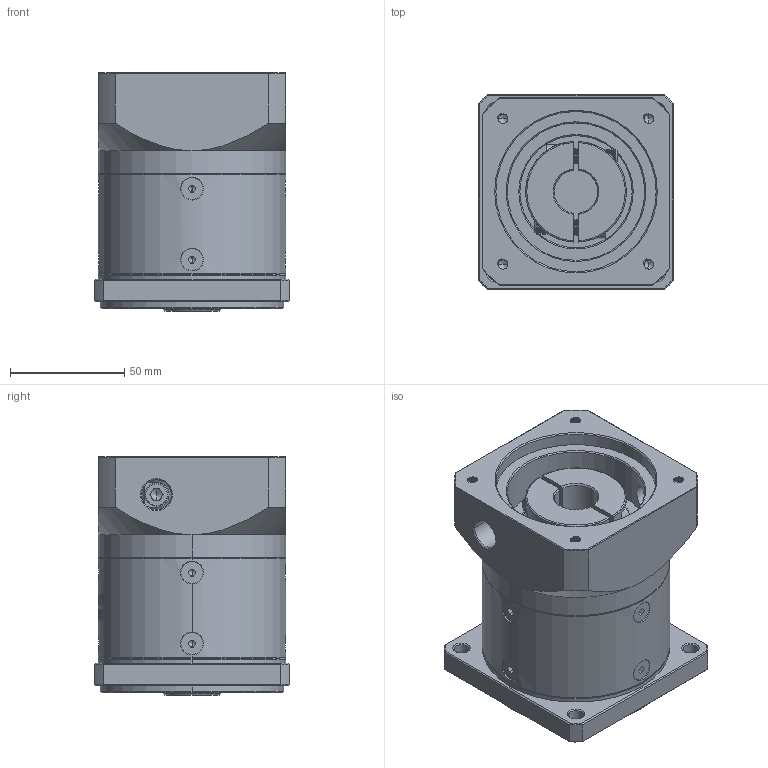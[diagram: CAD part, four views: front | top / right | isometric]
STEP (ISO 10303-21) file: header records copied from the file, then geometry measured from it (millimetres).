
FILE_DESCRIPTION (( 'STEP AP214' ), '1' );
FILE_NAME ('ZF080-K15-L1-P2-19-70-90-M5.step', '2023-08-19T05:34:54', ( '' ), ( '' ), 'SwSTEP 2.0', 'SolidWorks 2016', '' );
FILE_SCHEMA (( 'AUTOMOTIVE_DESIGN' ));
Length unit declared in the file: millimetre
Products named in the file (1): ZF080-K15-L1-P2-19-70-90-M5
Bounding box: 85 x 85 x 104 mm (x, y, z)
Volume: 514766.9 mm3; surface area: 84730.8 mm2
Topology: 13 solids, 13 shells, 2201 faces, 5785 edges, 3681 vertices
Faces by surface type: plane 1061, bspline 390, cylinder 384, cone 331, torus 35
Entity records: 117210 total; most frequent: CARTESIAN_POINT 43707, ORIENTED_EDGE 11514, DIRECTION 8512, EDGE_CURVE 5757, VERTEX_POINT 3681, VECTOR 3062, LINE 3062, AXIS2_PLACEMENT_3D 2725
